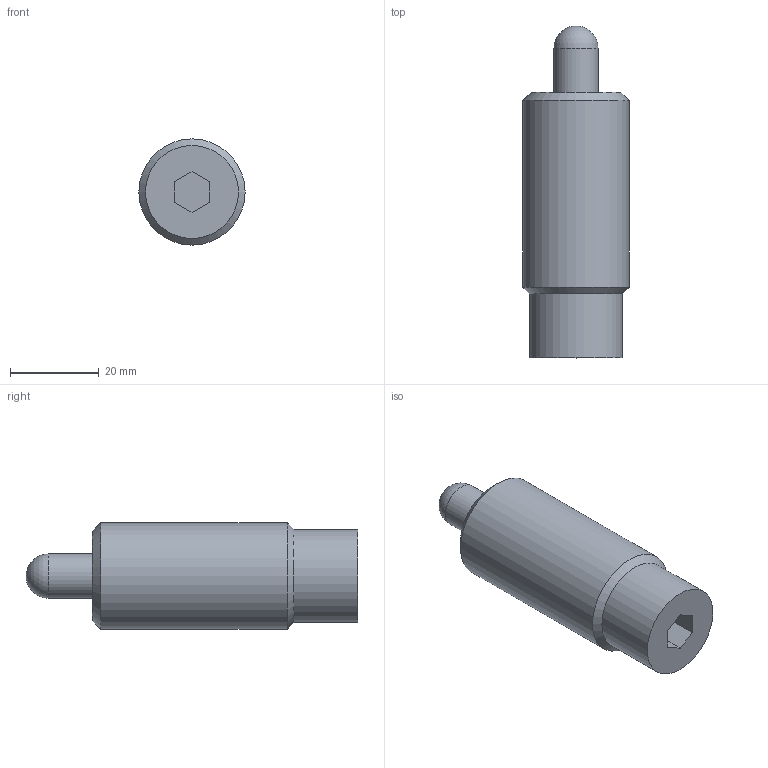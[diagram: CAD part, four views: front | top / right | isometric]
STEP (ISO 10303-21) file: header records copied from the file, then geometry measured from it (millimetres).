
FILE_DESCRIPTION( ( 'STEP AP203' ), '1' );
FILE_NAME( 'p:/temp/worker_6/temp/app_49_0201907041200327394380910e898ce_000000_00_00_000000/format_1/M314-04-016.stp', '2019-07-04T10:00:33', ( '' ), ( '' ), ' ', 'PARTsolutions', ' ' );
FILE_SCHEMA( ( 'CONFIG_CONTROL_DESIGN' ) );
Length unit declared in the file: millimetre
Products named in the file (1): _M314-04-016
Bounding box: 24 x 75 x 24 mm (x, y, z)
Volume: 26007.3 mm3; surface area: 5751.5 mm2
Topology: 1 solids, 1 shells, 15 faces, 33 edges, 21 vertices
Faces by surface type: plane 9, cylinder 3, cone 2, sphere 1
Full cylindrical faces by diameter (mm): 10 x1, 21 x1, 24 x1
Entity records: 410 total; most frequent: DIRECTION 64, CARTESIAN_POINT 61, ORIENTED_EDGE 50, EDGE_CURVE 25, AXIS2_PLACEMENT_3D 23, EDGE_LOOP 22, VERTEX_POINT 20, FACE_OUTER_BOUND 18
